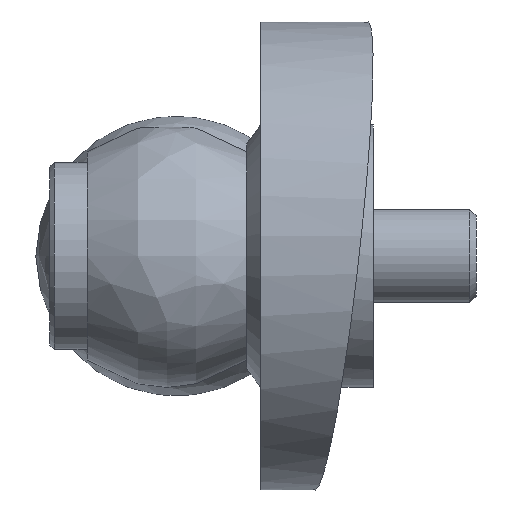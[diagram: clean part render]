
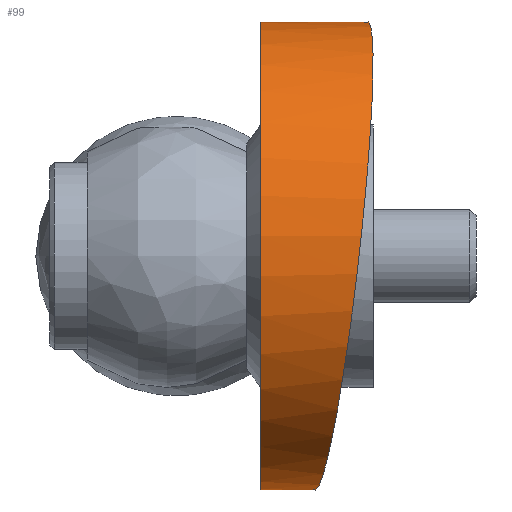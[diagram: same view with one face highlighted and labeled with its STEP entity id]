
A CAD part, left-side view. The second image highlights one B-rep face of the part: STEP entity #99.
In plain terms, the highlighted cylindrical face has radius 25 mm (diameter 50 mm), a partial arc.
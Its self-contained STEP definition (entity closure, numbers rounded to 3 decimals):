
#99 = ADVANCED_FACE( '', ( #171 ), #172, .T. );
#171 = FACE_OUTER_BOUND( '', #288, .T. );
#172 = CYLINDRICAL_SURFACE( '', #289, 25. );
#288 = EDGE_LOOP( '', ( #463, #464, #465, #466 ) );
#289 = AXIS2_PLACEMENT_3D( '', #467, #468, #469 );
#463 = ORIENTED_EDGE( '', *, *, #566, .F. );
#464 = ORIENTED_EDGE( '', *, *, #536, .F. );
#465 = ORIENTED_EDGE( '', *, *, #567, .F. );
#466 = ORIENTED_EDGE( '', *, *, #533, .T. );
#467 = CARTESIAN_POINT( '', ( 0., 12., 0. ) );
#468 = DIRECTION( '', ( 0., 1., 0. ) );
#469 = DIRECTION( '', ( 0., 0., -1. ) );
#533 = EDGE_CURVE( '', #605, #603, #606, .T. );
#536 = EDGE_CURVE( '', #609, #601, #611, .T. );
#566 = EDGE_CURVE( '', #601, #603, #657, .T. );
#567 = EDGE_CURVE( '', #605, #609, #658, .T. );
#601 = VERTEX_POINT( '', #780 );
#603 = VERTEX_POINT( '', #783 );
#605 = VERTEX_POINT( '', #786 );
#606 = LINE( '', #787, #788 );
#609 = VERTEX_POINT( '', #792 );
#611 = LINE( '', #795, #796 );
#657 = ELLIPSE( '', #861, 25.229, 25. );
#658 = CIRCLE( '', #862, 25. );
#780 = CARTESIAN_POINT( '', ( 14., 2.123, 20.712 ) );
#783 = CARTESIAN_POINT( '', ( 14., 6.78, -20.712 ) );
#786 = CARTESIAN_POINT( '', ( 14., 12., -20.712 ) );
#787 = CARTESIAN_POINT( '', ( 14., 12., -20.712 ) );
#788 = VECTOR( '', #901, 1000. );
#792 = CARTESIAN_POINT( '', ( 14., 12., 20.712 ) );
#795 = CARTESIAN_POINT( '', ( 14., 12., 20.712 ) );
#796 = VECTOR( '', #904, 1000. );
#861 = AXIS2_PLACEMENT_3D( '', #954, #955, #956 );
#862 = AXIS2_PLACEMENT_3D( '', #957, #958, #959 );
#901 = DIRECTION( '', ( 0., -1., 0. ) );
#904 = DIRECTION( '', ( 0., -1., 0. ) );
#954 = CARTESIAN_POINT( '', ( 0., 3.39, 0. ) );
#955 = DIRECTION( '', ( 0.075, -0.991, -0.111 ) );
#956 = DIRECTION( '', ( -0.554, -0.134, 0.822 ) );
#957 = CARTESIAN_POINT( '', ( 0., 12., 0. ) );
#958 = DIRECTION( '', ( 0., 1., 0. ) );
#959 = DIRECTION( '', ( 1., 0., 0. ) );
